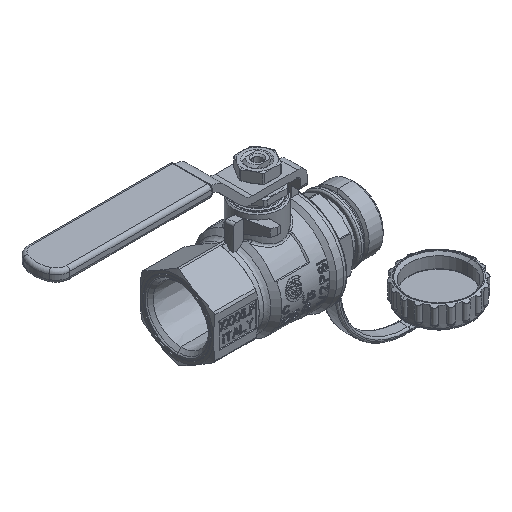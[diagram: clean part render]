
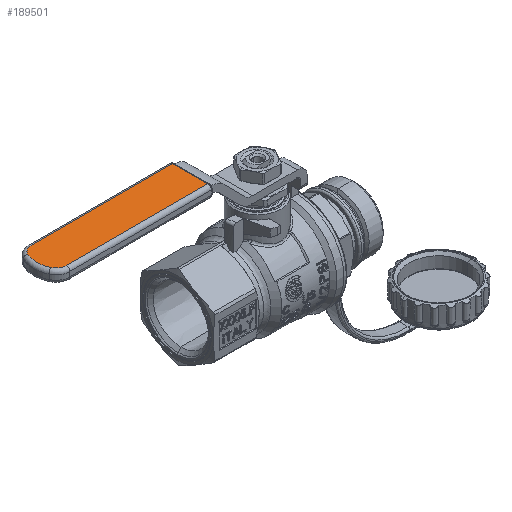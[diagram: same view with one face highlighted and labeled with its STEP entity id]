
A CAD part, isometric view. The second image highlights one B-rep face of the part: STEP entity #189501.
In plain terms, the highlighted planar face has unit normal (0, 0, 1).
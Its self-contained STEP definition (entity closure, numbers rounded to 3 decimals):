
#188522 = CYLINDRICAL_SURFACE('',#188523,0.028);
#188523 = AXIS2_PLACEMENT_3D('',#188524,#188525,#188526);
#188524 = CARTESIAN_POINT('',(37.87,-0.163,-11.229));
#188525 = DIRECTION('',(0.,-1.,0.));
#188526 = DIRECTION('',(0.,0.,1.));
#189022 = VERTEX_POINT('',#189023);
#189023 = CARTESIAN_POINT('',(37.87,-0.167,-11.201));
#189045 = EDGE_CURVE('',#189022,#189046,#189048,.T.);
#189046 = VERTEX_POINT('',#189047);
#189047 = CARTESIAN_POINT('',(37.87,-0.758,-11.201));
#189048 = SURFACE_CURVE('',#189049,(#189053,#189060),.PCURVE_S1.);
#189049 = LINE('',#189050,#189051);
#189050 = CARTESIAN_POINT('',(37.87,-0.167,-11.201));
#189051 = VECTOR('',#189052,1.);
#189052 = DIRECTION('',(0.,-1.,0.));
#189053 = PCURVE('',#188522,#189054);
#189054 = DEFINITIONAL_REPRESENTATION('',(#189055),#189059);
#189055 = LINE('',#189056,#189057);
#189056 = CARTESIAN_POINT('',(6.283,0.004));
#189057 = VECTOR('',#189058,1.);
#189058 = DIRECTION('',(0.,1.));
#189059 = ( GEOMETRIC_REPRESENTATION_CONTEXT(2) 
PARAMETRIC_REPRESENTATION_CONTEXT() REPRESENTATION_CONTEXT('2D SPACE',''
  ) );
#189060 = PCURVE('',#189061,#189066);
#189061 = PLANE('',#189062);
#189062 = AXIS2_PLACEMENT_3D('',#189063,#189064,#189065);
#189063 = CARTESIAN_POINT('',(35.218,-0.108,-11.201));
#189064 = DIRECTION('',(0.,0.,1.));
#189065 = DIRECTION('',(0.,-1.,0.));
#189066 = DEFINITIONAL_REPRESENTATION('',(#189067),#189071);
#189067 = LINE('',#189068,#189069);
#189068 = CARTESIAN_POINT('',(0.059,2.652));
#189069 = VECTOR('',#189070,1.);
#189070 = DIRECTION('',(1.,0.));
#189071 = ( GEOMETRIC_REPRESENTATION_CONTEXT(2) 
PARAMETRIC_REPRESENTATION_CONTEXT() REPRESENTATION_CONTEXT('2D SPACE',''
  ) );
#189117 = CYLINDRICAL_SURFACE('',#189118,0.059);
#189118 = AXIS2_PLACEMENT_3D('',#189119,#189120,#189121);
#189119 = CARTESIAN_POINT('',(35.477,-0.758,-11.26));
#189120 = DIRECTION('',(1.,0.,0.));
#189121 = DIRECTION('',(0.,-1.,0.));
#189411 = TOROIDAL_SURFACE('',#189412,0.177,0.059);
#189412 = AXIS2_PLACEMENT_3D('',#189413,#189414,#189415);
#189413 = CARTESIAN_POINT('',(35.481,-0.581,-11.26));
#189414 = DIRECTION('',(0.,0.,-1.));
#189415 = DIRECTION('',(-0.914,-0.405,
    0.));
#189427 = VERTEX_POINT('',#189428);
#189428 = CARTESIAN_POINT('',(35.321,-0.657,-11.201)
  );
#189443 = TOROIDAL_SURFACE('',#189444,0.453,0.059);
#189444 = AXIS2_PLACEMENT_3D('',#189445,#189446,#189447);
#189445 = CARTESIAN_POINT('',(35.73,-0.463,-11.26));
#189446 = DIRECTION('',(0.,0.,1.));
#189447 = DIRECTION('',(-0.9,0.436,
    0.));
#189457 = VERTEX_POINT('',#189458);
#189458 = CARTESIAN_POINT('',(35.481,-0.758,-11.201)
  );
#189480 = EDGE_CURVE('',#189427,#189457,#189481,.T.);
#189481 = SURFACE_CURVE('',#189482,(#189487,#189494),.PCURVE_S1.);
#189482 = CIRCLE('',#189483,0.177);
#189483 = AXIS2_PLACEMENT_3D('',#189484,#189485,#189486);
#189484 = CARTESIAN_POINT('',(35.481,-0.581,-11.201));
#189485 = DIRECTION('',(0.,0.,1.));
#189486 = DIRECTION('',(-0.904,-0.429,
    0.));
#189487 = PCURVE('',#189411,#189488);
#189488 = DEFINITIONAL_REPRESENTATION('',(#189489),#189493);
#189489 = LINE('',#189490,#189491);
#189490 = CARTESIAN_POINT('',(6.258,4.712));
#189491 = VECTOR('',#189492,1.);
#189492 = DIRECTION('',(-1.,0.));
#189493 = ( GEOMETRIC_REPRESENTATION_CONTEXT(2) 
PARAMETRIC_REPRESENTATION_CONTEXT() REPRESENTATION_CONTEXT('2D SPACE',''
  ) );
#189494 = PCURVE('',#189061,#189495);
#189495 = DEFINITIONAL_REPRESENTATION('',(#189496),#189500);
#189496 = CIRCLE('',#189497,0.177);
#189497 = AXIS2_PLACEMENT_2D('',#189498,#189499);
#189498 = CARTESIAN_POINT('',(0.473,0.263));
#189499 = DIRECTION('',(0.429,-0.904));
#189500 = ( GEOMETRIC_REPRESENTATION_CONTEXT(2) 
PARAMETRIC_REPRESENTATION_CONTEXT() REPRESENTATION_CONTEXT('2D SPACE',''
  ) );
#189501 = ADVANCED_FACE('',(#189502),#189061,.T.);
#189502 = FACE_BOUND('',#189503,.T.);
#189503 = EDGE_LOOP('',(#189504,#189532,#189561,#189583,#189584,#189605)
  );
#189504 = ORIENTED_EDGE('',*,*,#189505,.T.);
#189505 = EDGE_CURVE('',#189022,#189506,#189508,.T.);
#189506 = VERTEX_POINT('',#189507);
#189507 = CARTESIAN_POINT('',(35.481,-0.167,-11.201)
  );
#189508 = SURFACE_CURVE('',#189509,(#189513,#189520),.PCURVE_S1.);
#189509 = LINE('',#189510,#189511);
#189510 = CARTESIAN_POINT('',(37.87,-0.167,-11.201));
#189511 = VECTOR('',#189512,1.);
#189512 = DIRECTION('',(-1.,0.,0.));
#189513 = PCURVE('',#189061,#189514);
#189514 = DEFINITIONAL_REPRESENTATION('',(#189515),#189519);
#189515 = LINE('',#189516,#189517);
#189516 = CARTESIAN_POINT('',(0.059,2.652));
#189517 = VECTOR('',#189518,1.);
#189518 = DIRECTION('',(0.,-1.));
#189519 = ( GEOMETRIC_REPRESENTATION_CONTEXT(2) 
PARAMETRIC_REPRESENTATION_CONTEXT() REPRESENTATION_CONTEXT('2D SPACE',''
  ) );
#189520 = PCURVE('',#189521,#189526);
#189521 = CYLINDRICAL_SURFACE('',#189522,0.059);
#189522 = AXIS2_PLACEMENT_3D('',#189523,#189524,#189525);
#189523 = CARTESIAN_POINT('',(37.902,-0.167,-11.26));
#189524 = DIRECTION('',(-1.,0.,0.));
#189525 = DIRECTION('',(0.,1.,0.));
#189526 = DEFINITIONAL_REPRESENTATION('',(#189527),#189531);
#189527 = LINE('',#189528,#189529);
#189528 = CARTESIAN_POINT('',(4.712,0.032));
#189529 = VECTOR('',#189530,1.);
#189530 = DIRECTION('',(0.,1.));
#189531 = ( GEOMETRIC_REPRESENTATION_CONTEXT(2) 
PARAMETRIC_REPRESENTATION_CONTEXT() REPRESENTATION_CONTEXT('2D SPACE',''
  ) );
#189532 = ORIENTED_EDGE('',*,*,#189533,.T.);
#189533 = EDGE_CURVE('',#189506,#189534,#189536,.T.);
#189534 = VERTEX_POINT('',#189535);
#189535 = CARTESIAN_POINT('',(35.321,-0.269,-11.201));
#189536 = SURFACE_CURVE('',#189537,(#189542,#189549),.PCURVE_S1.);
#189537 = CIRCLE('',#189538,0.177);
#189538 = AXIS2_PLACEMENT_3D('',#189539,#189540,#189541);
#189539 = CARTESIAN_POINT('',(35.481,-0.345,-11.201));
#189540 = DIRECTION('',(0.,0.,1.));
#189541 = DIRECTION('',(0.,1.,0.));
#189542 = PCURVE('',#189061,#189543);
#189543 = DEFINITIONAL_REPRESENTATION('',(#189544),#189548);
#189544 = CIRCLE('',#189545,0.177);
#189545 = AXIS2_PLACEMENT_2D('',#189546,#189547);
#189546 = CARTESIAN_POINT('',(0.236,0.263));
#189547 = DIRECTION('',(-1.,0.));
#189548 = ( GEOMETRIC_REPRESENTATION_CONTEXT(2) 
PARAMETRIC_REPRESENTATION_CONTEXT() REPRESENTATION_CONTEXT('2D SPACE',''
  ) );
#189549 = PCURVE('',#189550,#189555);
#189550 = TOROIDAL_SURFACE('',#189551,0.177,0.059);
#189551 = AXIS2_PLACEMENT_3D('',#189552,#189553,#189554);
#189552 = CARTESIAN_POINT('',(35.481,-0.345,-11.26));
#189553 = DIRECTION('',(0.,0.,1.));
#189554 = DIRECTION('',(0.018,1.,
    0.));
#189555 = DEFINITIONAL_REPRESENTATION('',(#189556),#189560);
#189556 = LINE('',#189557,#189558);
#189557 = CARTESIAN_POINT('',(0.018,1.571));
#189558 = VECTOR('',#189559,1.);
#189559 = DIRECTION('',(1.,0.));
#189560 = ( GEOMETRIC_REPRESENTATION_CONTEXT(2) 
PARAMETRIC_REPRESENTATION_CONTEXT() REPRESENTATION_CONTEXT('2D SPACE',''
  ) );
#189561 = ORIENTED_EDGE('',*,*,#189562,.T.);
#189562 = EDGE_CURVE('',#189534,#189427,#189563,.T.);
#189563 = SURFACE_CURVE('',#189564,(#189569,#189576),.PCURVE_S1.);
#189564 = CIRCLE('',#189565,0.453);
#189565 = AXIS2_PLACEMENT_3D('',#189566,#189567,#189568);
#189566 = CARTESIAN_POINT('',(35.73,-0.463,-11.201));
#189567 = DIRECTION('',(0.,0.,1.));
#189568 = DIRECTION('',(-0.904,0.429,
    0.));
#189569 = PCURVE('',#189061,#189570);
#189570 = DEFINITIONAL_REPRESENTATION('',(#189571),#189575);
#189571 = CIRCLE('',#189572,0.453);
#189572 = AXIS2_PLACEMENT_2D('',#189573,#189574);
#189573 = CARTESIAN_POINT('',(0.355,0.512));
#189574 = DIRECTION('',(-0.429,-0.904));
#189575 = ( GEOMETRIC_REPRESENTATION_CONTEXT(2) 
PARAMETRIC_REPRESENTATION_CONTEXT() REPRESENTATION_CONTEXT('2D SPACE',''
  ) );
#189576 = PCURVE('',#189443,#189577);
#189577 = DEFINITIONAL_REPRESENTATION('',(#189578),#189582);
#189578 = LINE('',#189579,#189580);
#189579 = CARTESIAN_POINT('',(0.008,1.571));
#189580 = VECTOR('',#189581,1.);
#189581 = DIRECTION('',(1.,0.));
#189582 = ( GEOMETRIC_REPRESENTATION_CONTEXT(2) 
PARAMETRIC_REPRESENTATION_CONTEXT() REPRESENTATION_CONTEXT('2D SPACE',''
  ) );
#189583 = ORIENTED_EDGE('',*,*,#189480,.T.);
#189584 = ORIENTED_EDGE('',*,*,#189585,.T.);
#189585 = EDGE_CURVE('',#189457,#189046,#189586,.T.);
#189586 = SURFACE_CURVE('',#189587,(#189591,#189598),.PCURVE_S1.);
#189587 = LINE('',#189588,#189589);
#189588 = CARTESIAN_POINT('',(35.481,-0.758,-11.201));
#189589 = VECTOR('',#189590,1.);
#189590 = DIRECTION('',(1.,0.,0.));
#189591 = PCURVE('',#189061,#189592);
#189592 = DEFINITIONAL_REPRESENTATION('',(#189593),#189597);
#189593 = LINE('',#189594,#189595);
#189594 = CARTESIAN_POINT('',(0.65,0.263));
#189595 = VECTOR('',#189596,1.);
#189596 = DIRECTION('',(0.,1.));
#189597 = ( GEOMETRIC_REPRESENTATION_CONTEXT(2) 
PARAMETRIC_REPRESENTATION_CONTEXT() REPRESENTATION_CONTEXT('2D SPACE',''
  ) );
#189598 = PCURVE('',#189117,#189599);
#189599 = DEFINITIONAL_REPRESENTATION('',(#189600),#189604);
#189600 = LINE('',#189601,#189602);
#189601 = CARTESIAN_POINT('',(4.712,0.004));
#189602 = VECTOR('',#189603,1.);
#189603 = DIRECTION('',(0.,1.));
#189604 = ( GEOMETRIC_REPRESENTATION_CONTEXT(2) 
PARAMETRIC_REPRESENTATION_CONTEXT() REPRESENTATION_CONTEXT('2D SPACE',''
  ) );
#189605 = ORIENTED_EDGE('',*,*,#189045,.F.);
